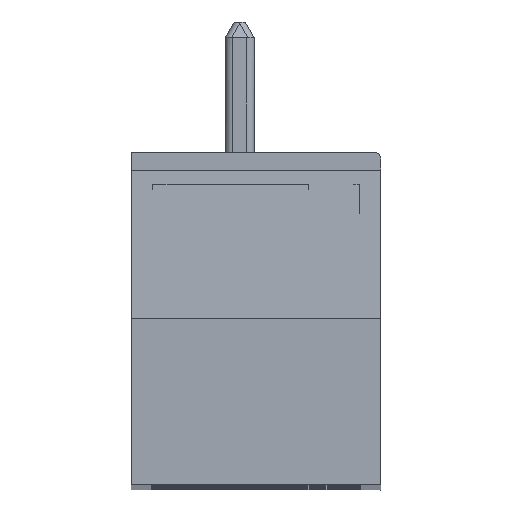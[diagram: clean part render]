
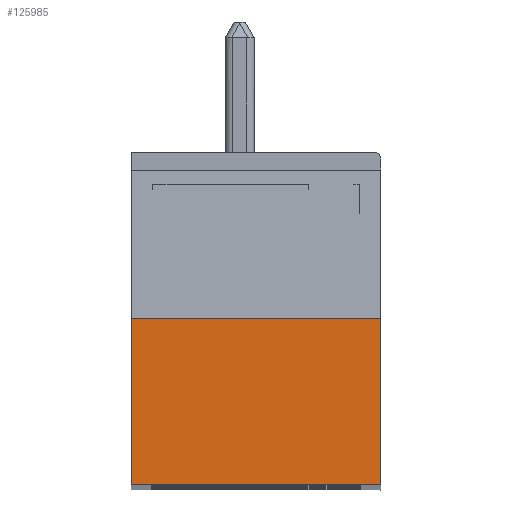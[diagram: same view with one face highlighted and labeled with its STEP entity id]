
A CAD part, top view. The second image highlights one B-rep face of the part: STEP entity #125985.
In plain terms, the highlighted planar face has unit normal (0, 0, 1).
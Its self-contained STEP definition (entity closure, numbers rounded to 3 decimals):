
#14315 = DIRECTION ( 'NONE',  ( -1., 0., 0. ) ) ;
#14317 = VECTOR ( 'NONE', #14315, 1000. ) ;
#14319 = CARTESIAN_POINT ( 'NONE',  ( -3.832, -2.409, 0. ) ) ;
#14320 = LINE ( 'NONE', #14319, #14317 ) ;
#14328 = CARTESIAN_POINT ( 'NONE',  ( -7.282, -2.409, 0. ) ) ;
#14335 = CARTESIAN_POINT ( 'NONE',  ( -0.382, -2.409, 0. ) ) ;
#18895 = CARTESIAN_POINT ( 'NONE',  ( -7.282, -7.009, 0. ) ) ;
#18986 = CARTESIAN_POINT ( 'NONE',  ( -7.282, -7.009, 0. ) ) ;
#18987 = CARTESIAN_POINT ( 'NONE',  ( -7.282, -5.475, 0. ) ) ;
#18988 = CARTESIAN_POINT ( 'NONE',  ( -7.282, -3.942, 0. ) ) ;
#18990 = CARTESIAN_POINT ( 'NONE',  ( -7.282, -2.409, 0. ) ) ;
#18998 = B_SPLINE_CURVE_WITH_KNOTS ( 'NONE', 3,
 ( #18990, #18988, #18987, #18986 ),
 .UNSPECIFIED., .F., .F.,
 ( 4, 4 ),
 ( 0., 1. ),
 .UNSPECIFIED. ) ;
#19550 = CARTESIAN_POINT ( 'NONE',  ( -0.382, -2.409, 0. ) ) ;
#19551 = CARTESIAN_POINT ( 'NONE',  ( -0.382, -3.942, 0. ) ) ;
#19552 = CARTESIAN_POINT ( 'NONE',  ( -0.382, -5.475, 0. ) ) ;
#19553 = CARTESIAN_POINT ( 'NONE',  ( -0.382, -7.009, 0. ) ) ;
#19554 = CARTESIAN_POINT ( 'NONE',  ( -0.382, -7.009, 0. ) ) ;
#19555 = B_SPLINE_CURVE_WITH_KNOTS ( 'NONE', 3,
 ( #19553, #19552, #19551, #19550 ),
 .UNSPECIFIED., .F., .F.,
 ( 4, 4 ),
 ( 0., 1. ),
 .UNSPECIFIED. ) ;
#19596 = FACE_OUTER_BOUND ( 'NONE', #125987, .T. ) ;
#19648 = DIRECTION ( 'NONE',  ( -1., 0., 0. ) ) ;
#19649 = VECTOR ( 'NONE', #19648, 1000. ) ;
#19650 = CARTESIAN_POINT ( 'NONE',  ( -7.282, -7.009, 0. ) ) ;
#19651 = LINE ( 'NONE', #19650, #19649 ) ;
#19652 = DIRECTION ( 'NONE',  ( 0., -1., 0. ) ) ;
#19653 = DIRECTION ( 'NONE',  ( 0., 0., 1. ) ) ;
#19654 = CARTESIAN_POINT ( 'NONE',  ( -7.282, -2.409, 0. ) ) ;
#19655 = AXIS2_PLACEMENT_3D ( 'NONE', #19654, #19653, #19652 ) ;
#19656 = PLANE ( 'NONE',  #19655 ) ;
#122905 = VERTEX_POINT ( 'NONE', #14335 ) ;
#122911 = VERTEX_POINT ( 'NONE', #14328 ) ;
#122915 = EDGE_CURVE ( 'NONE', #122905, #122911, #14320, .T. ) ;
#125068 = VERTEX_POINT ( 'NONE', #18895 ) ;
#125074 = EDGE_CURVE ( 'NONE', #122911, #125068, #18998, .T. ) ;
#125863 = EDGE_CURVE ( 'NONE', #125865, #122905, #19555, .T. ) ;
#125865 = VERTEX_POINT ( 'NONE', #19554 ) ;
#125985 = ADVANCED_FACE ( 'NONE', ( #19596 ), #19656, .T. ) ;
#125987 = EDGE_LOOP ( 'NONE', ( #125988, #125992, #125993, #126064 ) ) ;
#125988 = ORIENTED_EDGE ( 'NONE', *, *, #122915, .T. ) ;
#125992 = ORIENTED_EDGE ( 'NONE', *, *, #125074, .T. ) ;
#125993 = ORIENTED_EDGE ( 'NONE', *, *, #125994, .F. ) ;
#125994 = EDGE_CURVE ( 'NONE', #125865, #125068, #19651, .T. ) ;
#126064 = ORIENTED_EDGE ( 'NONE', *, *, #125863, .T. ) ;
